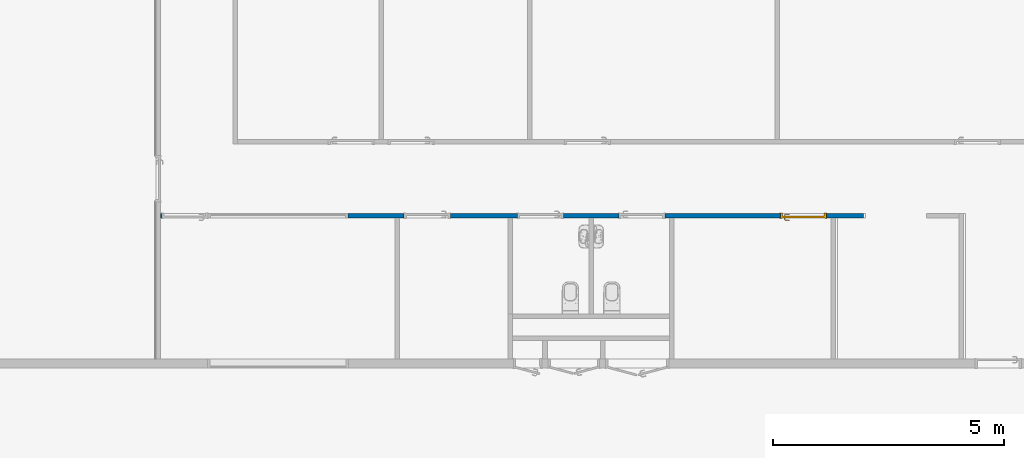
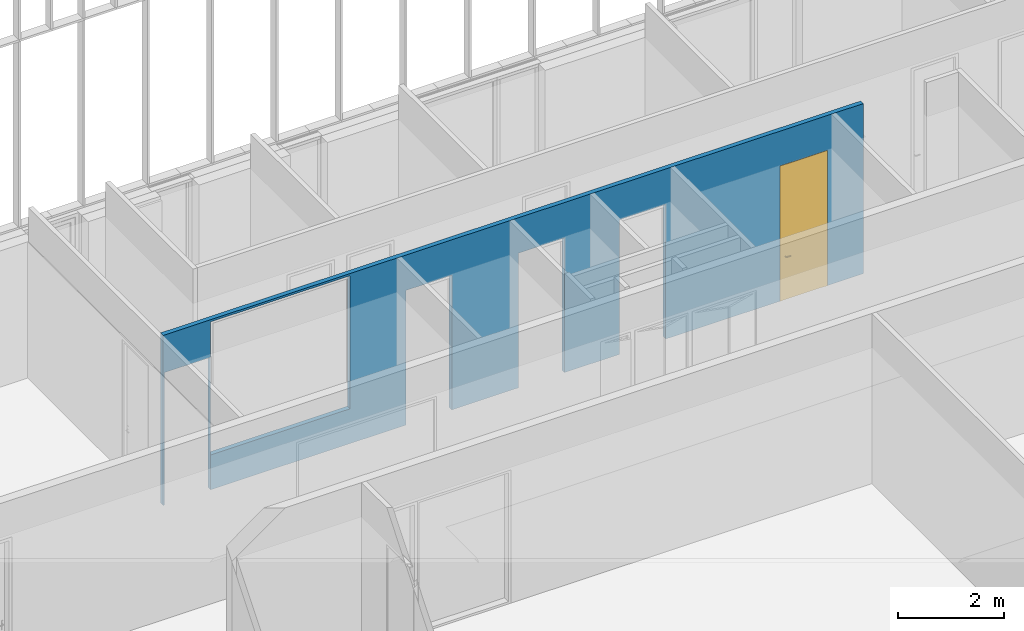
# One storey, part 139 of 240: 1 door, 1 wall, 6 openings.
"""IFC2X3 building model written with IfcOpenShell, lengths in centimetres."""

from ifc_helpers import new_model, entity, si_unit, converted_unit, derived_unit, direction, frame, frame_2d, origin, place, context, subcontext, project, spatial, polyline, rectangle, extrude, clip, bounded_halfspace, faceted_brep, source, transform, mapped, material, material_list, layer, layer_set, layer_usage, type_object, type_shapes, element, fill, save


model = new_model("IFC2X3")

# Units and contexts
model_context = context("Model", 3, precision=0.001, world=origin(), true_north=direction((6.12303176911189e-17, 1.0)))
body_context = subcontext(model_context, "Body", "Model", "MODEL_VIEW")
ifc_project = project(units=[si_unit("LENGTHUNIT", "METRE", prefix="CENTI"), si_unit("AREAUNIT", "SQUARE_METRE"), si_unit("VOLUMEUNIT", "CUBIC_METRE"), converted_unit("PLANEANGLEUNIT", "DEGREE", entity("IfcRatioMeasure", 0.0174532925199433), si_unit("PLANEANGLEUNIT", "RADIAN"), dimensions=[0, 0, 0, 0, 0, 0, 0]), si_unit("MASSUNIT", "GRAM", prefix="KILO"), derived_unit("MASSDENSITYUNIT", [(si_unit("MASSUNIT", "GRAM", prefix="KILO"), 1), (si_unit("LENGTHUNIT", "METRE"), -3)]), si_unit("TIMEUNIT", "SECOND"), si_unit("FREQUENCYUNIT", "HERTZ"), si_unit("THERMODYNAMICTEMPERATUREUNIT", "DEGREE_CELSIUS"), derived_unit("THERMALTRANSMITTANCEUNIT", [(si_unit("MASSUNIT", "GRAM", prefix="KILO"), 1), (si_unit("THERMODYNAMICTEMPERATUREUNIT", "KELVIN"), -1), (si_unit("TIMEUNIT", "SECOND"), -3)]), derived_unit("VOLUMETRICFLOWRATEUNIT", [(si_unit("LENGTHUNIT", "METRE"), 3), (si_unit("TIMEUNIT", "SECOND"), -1)]), si_unit("ELECTRICCURRENTUNIT", "AMPERE"), si_unit("ELECTRICVOLTAGEUNIT", "VOLT"), si_unit("POWERUNIT", "WATT"), si_unit("FORCEUNIT", "NEWTON", prefix="KILO"), si_unit("ILLUMINANCEUNIT", "LUX"), si_unit("LUMINOUSFLUXUNIT", "LUMEN"), si_unit("LUMINOUSINTENSITYUNIT", "CANDELA"), derived_unit("USERDEFINED", [(si_unit("MASSUNIT", "GRAM", prefix="KILO"), -1), (si_unit("LENGTHUNIT", "METRE"), -2), (si_unit("TIMEUNIT", "SECOND"), 3), (si_unit("LUMINOUSFLUXUNIT", "LUMEN"), 1)]), derived_unit("LINEARVELOCITYUNIT", [(si_unit("LENGTHUNIT", "METRE"), 1), (si_unit("TIMEUNIT", "SECOND"), -1)]), si_unit("PRESSUREUNIT", "PASCAL"), derived_unit("USERDEFINED", [(si_unit("LENGTHUNIT", "METRE"), -2), (si_unit("MASSUNIT", "GRAM", prefix="KILO"), 1), (si_unit("TIMEUNIT", "SECOND"), -2)])], contexts=[model_context])

# Site, building, storey
site_placement = place(None, frame((-2781.94577612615, 7442.24238424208, 0.0)))
site = spatial("IfcSite", under=ifc_project, at=site_placement, Name="Default", CompositionType="ELEMENT")
building_placement = place(site_placement, origin())
building = spatial("IfcBuilding", under=site, at=building_placement, CompositionType="ELEMENT")
storey_placement = place(building_placement, origin())
storey = spatial("IfcBuildingStorey", under=building, at=storey_placement, Name="N00 - COO", CompositionType="ELEMENT", Elevation=0.0)

# Wall, openings, door
ifc_material_1 = material(Name="01 - Enduit/Plâtre")
ifc_layer_1 = layer(ifc_material_1, 1.3)
ifc_material_2 = material(Name="00 - Isolant")
ifc_layer_2 = layer(ifc_material_2, 7.4)
ifc_layer_3 = layer(ifc_material_1, 1.3)
ifc_layer_set = layer_set([ifc_layer_1, ifc_layer_2, ifc_layer_3], Name="Mur de base:06 - cloisons - Ba13 10cm")
ifc_layer_usage = layer_usage(ifc_layer_set, "AXIS2", "NEGATIVE", 5.0)
wall_type = type_object("IfcWallType", Name="Mur de base:06 - cloisons - Ba13 10cm", PredefinedType="STANDARD", material=ifc_layer_set)
wall_placement = place(building_placement, frame((-6043.49987760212, -500.0, 0.0), z_axis=(0.0, 0.0, 1.0), x_axis=(-1.0, 0.0, 0.0)))
wall = element("IfcWallStandardCase", 1, at=wall_placement, inside=storey, type_object=wall_type, material=ifc_layer_usage, Name="Mur de base:06 - cloisons - Ba13 10cm", ObjectType="Mur de base:06 - cloisons - Ba13 10cm", context=body_context, shape_type="Clipping", body=[
    clip(extrude(rectangle(XDim=1522.75, YDim=10.0000000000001, at=frame_2d((761.375000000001, 2.04281036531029e-14), x_axis=(-1.0, 0.0))), origin(), (0.0, 0.0, 1.0), 391.0), bounded_halfspace(frame((0.0, -5.0, 391.0), z_axis=(0.0, 0.0, -1.0), x_axis=(0.0, -1.0, 0.0)), True, frame((0.0, -5.0, 391.0)), polyline([(0.0, 0.0), (1522.75, 0.0), (1522.75, 10.0), (1015.0, 10.0), (1005.0, 10.0), (770.0, 10.0), (760.0, 10.0), (595.0, 10.0), (585.0, 10.0), (420.0, 10.0), (410.0, 10.0), (70.0, 10.0), (60.0, 10.0), (0.0, 10.0), (0.0, 0.0)]))),
])
opening_1_placement = place(wall_placement, frame((80.0, -5.0, 0.0)))
opening_1 = element("IfcOpeningElement", 2, at=opening_1_placement, cuts=wall, Name="Int. Simple:PP (0.93m x 3.06m):1", ObjectType="Opening", context=body_context, shape_type="SweptSolid", body=[
    extrude(rectangle(XDim=309.500000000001, YDim=99.9999999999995, at=frame_2d((154.750000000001, 50.0), x_axis=(1.0, 0.0))), frame((0.0, 0.0, 0.0), z_axis=(0.0, 1.0, 0.0), x_axis=(0.0, 0.0, 1.0)), (0.0, 0.0, 1.0), 10.0),
])
opening_2_placement = place(wall_placement, frame((530.0, 5.0, 0.0)))
element("IfcOpeningElement", 3, at=opening_2_placement, cuts=wall, Name="Int. Simple:PP (0.93m x 3.06m):1", ObjectType="Opening", context=body_context, shape_type="SweptSolid", body=[
    extrude(rectangle(XDim=309.500000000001, YDim=99.9999999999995, at=frame_2d((154.750000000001, 49.9999999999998), x_axis=(1.0, 0.0))), frame((0.0, 0.0, 0.0), z_axis=(0.0, -1.0, 0.0), x_axis=(0.0, 0.0, 1.0)), (0.0, 0.0, 1.0), 10.0),
])
opening_3_placement = place(wall_placement, frame((750.0, 5.0, 0.0)))
element("IfcOpeningElement", 4, at=opening_3_placement, cuts=wall, Name="Int. Simple:PP (0.93m x 3.06m):1", ObjectType="Opening", context=body_context, shape_type="SweptSolid", body=[
    extrude(rectangle(XDim=309.500000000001, YDim=99.9999999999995, at=frame_2d((154.750000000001, 50.0), x_axis=(1.0, 0.0))), frame((0.0, 0.0, 0.0), z_axis=(0.0, -1.0, 0.0), x_axis=(0.0, 0.0, 1.0)), (0.0, 0.0, 1.0), 10.0),
])
opening_4_placement = place(wall_placement, frame((995.0, 5.0, 0.0)))
element("IfcOpeningElement", 5, at=opening_4_placement, cuts=wall, Name="Int. Simple:PP (0.93m x 3.06m):1", ObjectType="Opening", context=body_context, shape_type="SweptSolid", body=[
    extrude(rectangle(XDim=309.500000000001, YDim=99.9999999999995, at=frame_2d((154.750000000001, 50.0), x_axis=(1.0, 0.0))), frame((0.0, 0.0, 0.0), z_axis=(0.0, -1.0, 0.0), x_axis=(0.0, 0.0, 1.0)), (0.0, 0.0, 1.0), 10.0),
])
opening_5_placement = place(wall_placement, frame((1420.0, -5.0, 0.0)))
element("IfcOpeningElement", 6, at=opening_5_placement, cuts=wall, Name="Int. Simple:PV (0.93m x 3.00m):1", ObjectType="Opening", context=body_context, shape_type="SweptSolid", body=[
    extrude(rectangle(XDim=304.500000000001, YDim=99.9999999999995, at=frame_2d((152.250000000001, 49.9999999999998), x_axis=(1.0, 0.0))), frame((0.0, 0.0, 0.0), z_axis=(0.0, 1.0, 0.0), x_axis=(0.0, 0.0, 1.0)), (0.0, 0.0, 1.0), 10.0),
])
opening_6_placement = place(wall_placement, frame((1116.72491693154, -5.0, 80.0)))
element("IfcOpeningElement", 7, at=opening_6_placement, cuts=wall, Name="châssis intérieur vitré:châssis intérieur vitré (h=306):1", ObjectType="Opening", context=body_context, shape_type="SweptSolid", body=[
    extrude(rectangle(XDim=306.0, YDim=302.862969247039, at=frame_2d((153.0, 151.43148462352), x_axis=(1.0, 0.0))), frame((0.0, 0.0, 0.0), z_axis=(0.0, 1.0, 0.0), x_axis=(0.0, 0.0, 1.0)), (0.0, 0.0, 1.0), 10.0),
])
ifc_material_3 = material(Name="Finition Peinture - Blanc satiné")
ifc_material_4 = material(Name="Bois - Panneau de porte")
ifc_material_5 = material(Name="Bois - Cadre de porte")
ifc_material_list_1 = material_list([ifc_material_3, ifc_material_4, ifc_material_5])
ifc_material_list_2 = material_list([ifc_material_3, ifc_material_4, ifc_material_5])
door_style = type_object("IfcDoorStyle", Name="PP (0.93m x 3.06m)", ConstructionType="NOTDEFINED", OperationType="SINGLE_SWING_LEFT", ParameterTakesPrecedence=False, Sizeable=False, material=ifc_material_list_2)
shared_shape = source(origin(), body_context, "Body", "Brep", [
    faceted_brep([(10.5352761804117, -0.500000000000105, 86.6003983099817), (11.5000000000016, -0.500000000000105, 87.0), (11.5000000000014, -0.500000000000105, 108.0), (10.5352761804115, -0.500000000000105, 108.399601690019), (9.50000000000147, -0.500000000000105, 108.535898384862), (8.46472381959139, -0.500000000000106, 108.399601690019), (7.50000000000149, -0.500000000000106, 108.0), (7.50000000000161, -0.500000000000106, 87.0), (8.46472381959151, -0.500000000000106, 86.6003983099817), (9.50000000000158, -0.500000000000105, 86.464101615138), (10.5352761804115, 0.0, 108.399601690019), (11.5000000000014, 0.0, 108.0), (11.5000000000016, 0.0, 87.0), (10.5352761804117, 0.0, 86.6003983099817), (9.50000000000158, 0.0, 86.464101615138), (8.46472381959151, 0.0, 86.6003983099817), (7.50000000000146, 0.0, 87.0), (7.50000000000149, 0.0, 108.0), (8.46472381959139, 0.0, 108.399601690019), (9.50000000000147, 0.0, 108.535898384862)], [[[0, 1, 2, 3, 4, 5, 6, 7, 8, 9]], [[10, 11, 12, 13, 14, 15, 16, 17, 18, 19]], [[16, 15, 8, 7]], [[8, 15, 14, 9]], [[14, 13, 0, 9]], [[13, 12, 1, 0]], [[2, 1, 12, 11]], [[11, 10, 3, 2]], [[3, 10, 19, 4]], [[19, 18, 5, 4]], [[18, 17, 6, 5]], [[7, 6, 17, 16]]]),
    faceted_brep([(10.5352761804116, 4.0, 86.6003983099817), (11.5000000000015, 4.0, 87.0), (11.5000000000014, 4.0, 108.0), (10.5352761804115, 4.0, 108.399601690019), (9.50000000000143, 4.0, 108.535898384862), (8.46472381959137, 4.0, 108.399601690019), (7.50000000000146, 4.0, 108.0), (7.50000000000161, 4.0, 87.0), (8.46472381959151, 4.0, 86.6003983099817), (9.50000000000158, 4.0, 86.464101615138), (10.5352761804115, 4.49999999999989, 108.399601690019), (11.5000000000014, 4.49999999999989, 108.0), (11.5000000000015, 4.49999999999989, 87.0), (10.5352761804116, 4.49999999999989, 86.6003983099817), (9.50000000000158, 4.49999999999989, 86.464101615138), (8.46472381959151, 4.49999999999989, 86.6003983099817), (7.50000000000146, 4.49999999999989, 87.0), (7.50000000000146, 4.49999999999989, 108.0), (8.46472381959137, 4.49999999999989, 108.399601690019), (9.50000000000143, 4.49999999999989, 108.535898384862)], [[[0, 1, 2, 3, 4, 5, 6, 7, 8, 9]], [[10, 11, 12, 13, 14, 15, 16, 17, 18, 19]], [[11, 10, 3, 2]], [[3, 10, 19, 4]], [[19, 18, 5, 4]], [[18, 17, 6, 5]], [[7, 6, 17, 16]], [[16, 15, 8, 7]], [[8, 15, 14, 9]], [[14, 13, 0, 9]], [[13, 12, 1, 0]], [[2, 1, 12, 11]]]),
    faceted_brep([(9.29747013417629, -0.500000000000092, 100.778044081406), (9.70252986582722, -0.50000000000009, 100.778044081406), (10.1000000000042, -0.500000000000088, 100.699999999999), (10.1000000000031, -0.500000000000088, 99.3000000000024), (9.7025298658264, -0.50000000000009, 99.2219559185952), (9.29747013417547, -0.500000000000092, 99.221955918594), (8.8999999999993, -0.500000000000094, 99.2999999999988), (8.89999999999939, -0.500000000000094, 100.7), (8.89999999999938, -3.26509507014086, 100.7), (9.29747013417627, -3.10045754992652, 100.778044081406), (10.9023585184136, -4.70534593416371, 100.778044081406), (11.0701397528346, -4.30028620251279, 100.778044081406), (9.7025298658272, -2.93267631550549, 100.778044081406), (10.1000000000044, -2.76803879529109, 100.7), (10.1000000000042, -2.76803879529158, 99.3000000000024), (9.7025298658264, -2.93267631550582, 99.2219559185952), (11.0701397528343, -4.30028620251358, 99.2219559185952), (10.9023585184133, -4.70534593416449, 99.221955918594), (9.29747013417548, -3.10045754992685, 99.221955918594), (8.89999999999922, -3.26509507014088, 99.2999999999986), (10.7377209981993, -5.10281606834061, 100.7), (11.2347772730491, -3.90281606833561, 100.7), (11.2347772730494, -3.90281606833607, 99.3000000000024), (10.7377209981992, -5.10281606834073, 99.2999999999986), (19.5018640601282, -5.10281606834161, 99.2999999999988), (19.5018640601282, -4.70534593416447, 99.221955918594), (19.5018640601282, -4.30028620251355, 99.2219559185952), (19.5018640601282, -3.9028160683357, 99.3000000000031), (19.5018640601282, -3.90281606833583, 100.7), (19.5018640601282, -4.30028620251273, 100.778044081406), (19.5018640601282, -4.70534593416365, 100.778044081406), (19.5018640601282, -5.10281606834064, 100.699999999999), (14.7307697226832, -5.10281606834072, 100.7), (15.2860019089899, -4.5028160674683, 100.78786867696), (15.3683206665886, -3.9028160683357, 100.7), (15.3683206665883, -3.9028160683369, 99.3000000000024), (15.2860018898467, -4.50281607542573, 99.2121313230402), (14.7307700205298, -5.10281606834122, 99.2999999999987)], [[[0, 1, 2, 3, 4, 5, 6, 7]], [[8, 9, 0, 7]], [[9, 10, 11, 12, 1, 0]], [[12, 13, 2, 1]], [[3, 2, 13, 14]], [[14, 15, 4, 3]], [[15, 16, 17, 18, 5, 4]], [[18, 19, 6, 5]], [[7, 6, 19, 8]], [[20, 10, 9, 8]], [[11, 21, 13, 12]], [[14, 13, 21, 22]], [[22, 16, 15, 14]], [[17, 23, 19, 18]], [[8, 19, 23, 20]], [[24, 25, 26, 27, 28, 29, 30, 31]], [[32, 30, 33]], [[31, 30, 32]], [[10, 20, 32]], [[33, 34, 11]], [[21, 11, 34]], [[34, 29, 28]], [[30, 29, 33]], [[29, 34, 33]], [[10, 32, 33]], [[10, 33, 11]], [[22, 21, 34, 28, 27, 35]], [[35, 26, 36]], [[37, 36, 25]], [[22, 35, 16]], [[35, 27, 26]], [[24, 37, 25]], [[23, 17, 37]], [[37, 17, 36]], [[17, 16, 36]], [[16, 35, 36]], [[25, 36, 26]], [[20, 23, 37, 24, 31, 32]]]),
    faceted_brep([(9.29747013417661, 4.49999999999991, 100.778044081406), (8.89999999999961, 4.4999999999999, 100.7), (8.89999999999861, 4.4999999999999, 99.2999999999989), (9.29747013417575, 4.49999999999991, 99.221955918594), (9.70252986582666, 4.49999999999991, 99.2219559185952), (10.1000000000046, 4.49999999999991, 99.3000000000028), (10.1000000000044, 4.49999999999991, 100.7), (9.70252986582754, 4.49999999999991, 100.778044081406), (10.1000000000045, 6.7485204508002, 99.3000000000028), (10.1000000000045, 6.74852045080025, 100.7), (9.70252986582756, 6.91315797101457, 100.778044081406), (11.083890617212, 8.29451872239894, 100.778044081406), (10.916109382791, 8.69957845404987, 100.778044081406), (9.29747013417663, 7.0809392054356, 100.778044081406), (8.89999999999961, 7.24557672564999, 100.7), (8.89999999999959, 7.2455767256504, 99.2999999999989), (9.29747013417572, 7.08093920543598, 99.221955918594), (10.9161093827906, 8.69957845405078, 99.221955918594), (11.0838906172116, 8.29451872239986, 99.2219559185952), (9.70252986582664, 6.91315797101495, 99.2219559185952), (11.2485281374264, 7.89704858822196, 99.3000000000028), (11.2485281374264, 7.89704858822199, 100.7), (10.7514718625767, 9.09704858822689, 100.7), (10.7514718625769, 9.0970485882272, 99.2999999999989), (19.5045783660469, 7.89704858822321, 99.3000000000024), (19.5045783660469, 8.29451872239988, 99.2219559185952), (19.5045783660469, 8.6995784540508, 99.221955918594), (19.5045783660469, 9.09704858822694, 99.2999999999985), (19.5045783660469, 9.09704858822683, 100.7), (19.5045783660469, 8.69957845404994, 100.778044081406), (19.5045783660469, 8.29451872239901, 100.778044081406), (19.5045783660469, 7.89704858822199, 100.7), (15.3765520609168, 7.89704858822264, 99.3000000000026), (15.3765532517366, 7.89704858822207, 100.7), (15.294234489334, 8.49704858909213, 100.78786867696), (14.7445205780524, 9.09704858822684, 100.7), (14.7445204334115, 9.09704858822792, 99.2999999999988), (15.2942345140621, 8.49704858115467, 99.2121313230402)], [[[0, 1, 2, 3, 4, 5, 6, 7]], [[6, 5, 8, 9]], [[9, 10, 7, 6]], [[10, 11, 12, 13, 0, 7]], [[13, 14, 1, 0]], [[2, 1, 14, 15]], [[15, 16, 3, 2]], [[16, 17, 18, 19, 4, 3]], [[19, 8, 5, 4]], [[9, 8, 20, 21]], [[21, 11, 10, 9]], [[12, 22, 14, 13]], [[15, 14, 22, 23]], [[23, 17, 16, 15]], [[18, 20, 8, 19]], [[24, 25, 26, 27, 28, 29, 30, 31]], [[21, 20, 32, 24, 31, 33]], [[33, 30, 34]], [[35, 34, 29]], [[21, 33, 11]], [[33, 31, 30]], [[28, 35, 29]], [[22, 12, 35]], [[35, 12, 34]], [[12, 11, 34]], [[11, 33, 34]], [[29, 34, 30]], [[22, 35, 28, 27, 36, 23]], [[36, 26, 37]], [[27, 26, 36]], [[17, 23, 36]], [[37, 32, 18]], [[20, 18, 32]], [[32, 25, 24]], [[26, 25, 37]], [[25, 32, 37]], [[17, 36, 37]], [[17, 37, 18]]]),
    faceted_brep([(3.50000000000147, 4.0, 306.0), (96.5000000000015, 4.0, 306.0), (96.5000000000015, 4.0, 0.0), (3.50000000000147, 4.0, 0.0), (3.50000000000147, 0.0, 306.0), (3.50000000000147, 0.0, 0.0), (96.5000000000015, 0.0, 0.0), (96.5000000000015, 0.0, 306.0)], [[[0, 1, 2, 3]], [[4, 5, 6, 7]], [[1, 0, 4, 7]], [[2, 1, 7, 6]], [[3, 2, 6, 5]], [[0, 3, 5, 4]]]),
    faceted_brep([(0.0, 10.0, 0.0), (-1.50000000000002, 10.0, 0.0), (-1.50000000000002, 10.5000000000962, 0.0), (5.0, 10.5000000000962, 0.0), (5.0, 4.0, 0.0), (3.50000000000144, 4.0, 0.0), (3.50000000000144, -0.500000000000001, 0.0), (-1.50000000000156, -0.500000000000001, 0.0), (-1.50000000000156, 0.0, 0.0), (0.0, 0.0, 0.0), (0.0, 10.0, 309.500000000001), (100.0, 10.0, 309.500000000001), (100.0, 10.0, 0.0), (101.5, 10.0, 0.0), (101.5, 10.0, 311.0), (-1.50000000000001, 10.0, 311.0), (-1.50000000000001, 10.5000000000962, 311.0), (101.5, 10.5000000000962, 311.0), (101.5, 10.5000000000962, 0.0), (95.0, 10.5000000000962, 0.0), (95.0, 10.5000000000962, 304.5), (5.0, 10.5000000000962, 304.5), (5.0, 4.0, 304.5), (95.0, 4.0, 304.5), (95.0, 4.0, 0.0), (96.4999999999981, 4.0, 0.0), (96.4999999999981, 4.0, 306.0), (3.50000000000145, 4.0, 306.0), (3.50000000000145, -0.500000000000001, 306.0), (96.4999999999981, -0.500000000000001, 306.0), (96.4999999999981, -0.500000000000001, 0.0), (101.500000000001, -0.500000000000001, 0.0), (101.500000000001, -0.500000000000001, 311.0), (-1.50000000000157, -0.500000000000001, 311.0), (-1.50000000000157, 0.0, 311.0), (101.500000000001, 0.0, 311.0), (101.500000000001, 0.0, 0.0), (100.0, 0.0, 0.0), (100.0, 0.0, 309.500000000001), (0.0, 0.0, 309.500000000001)], [[[0, 1, 2, 3, 4, 5, 6, 7, 8, 9]], [[1, 0, 10, 11, 12, 13, 14, 15]], [[2, 1, 15, 16]], [[3, 2, 16, 17, 18, 19, 20, 21]], [[3, 21, 22, 4]], [[5, 4, 22, 23, 24, 25, 26, 27]], [[5, 27, 28, 6]], [[7, 6, 28, 29, 30, 31, 32, 33]], [[8, 7, 33, 34]], [[9, 8, 34, 35, 36, 37, 38, 39]], [[0, 9, 39, 10]], [[11, 38, 37, 12]], [[12, 37, 36, 31, 30, 25, 24, 19, 18, 13]], [[17, 14, 13, 18]], [[23, 20, 19, 24]], [[29, 26, 25, 30]], [[35, 32, 31, 36]], [[16, 15, 14, 17]], [[22, 21, 20, 23]], [[28, 27, 26, 29]], [[34, 33, 32, 35]], [[10, 39, 38, 11]]]),
])
type_shapes(door_style, [shared_shape])
door_placement = place(opening_1_placement, frame((100.0, 10.0, 0.0), z_axis=(0.0, 0.0, 1.0), x_axis=(-1.0, 0.0, 0.0)))
door = element("IfcDoor", 8, at=door_placement, inside=storey, type_object=door_style, material=ifc_material_list_1, Name="Int. Simple:PP (0.93m x 3.06m)", ObjectType="Int. Simple:PP (0.93m x 3.06m)", OverallHeight=309.500000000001, OverallWidth=99.9999999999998, context=body_context, shape_type="MappedRepresentation", body=[
    mapped(shared_shape, transform((0.0, 0.0, 0.0), scale=1.0)),
])
fill(opening_1, door)

save(model, "model.ifc")
